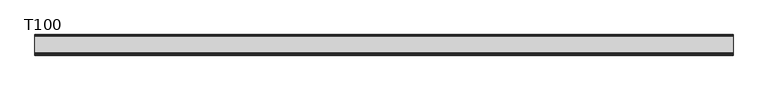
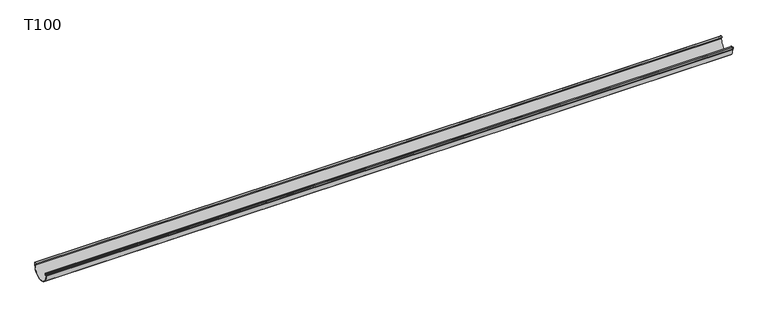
"""IFC4 building model written with IfcOpenShell, lengths in millimetres: proxy geometry, GROVIK_Gutter_Straight : T100."""

from ifc_helpers import new_model, si_unit, point, frame, frame_2d, origin, place, context, project, spatial, polyline, circle_curve, trimmed, segment, composite_curve, outline, extrude, source, transform, mapped, element, save


def t100_1b2db7d9(model_context):
    return source(origin(), model_context, "Body", "SweptSolid", [
        extrude(outline(composite_curve([segment(polyline([(95.6785725, -12.9222473), (100.8871557, -13.3779393)]), True, "CONTINUOUS"), segment(trimmed(circle_curve(frame_2d((100.8, -14.374134)), 1.0), [point((100.8871557, -13.3779393))], [point((101.8, -14.374134))], False, "CARTESIAN"), True, "CONTINUOUS"), segment(polyline([(101.8, -14.374134), (101.8, -16.3578028)]), True, "CONTINUOUS"), segment(trimmed(circle_curve(frame_2d((50.9, -16.3578028)), 50.9), [point((101.8, -16.3578028))], [point((0.0, -16.3578028))], False, "CARTESIAN"), True, "CONTINUOUS"), segment(polyline([(0.0, -16.3578028), (0.0, -0.5)]), True, "CONTINUOUS"), segment(trimmed(circle_curve(frame_2d((0.5, -0.5)), 0.5), [point((0.0, -0.5))], [point((0.8213938, -0.1169778))], False, "CARTESIAN"), True, "CONTINUOUS"), segment(polyline([(0.8213938, -0.1169778), (6.2279844, -4.653646), (5.6494755, -5.343086), (0.9, -1.3578028), (0.9, -16.3578028)]), True, "CONTINUOUS"), segment(trimmed(circle_curve(frame_2d((50.9, -16.3578028)), 50.0), [point((0.9, -16.3578028))], [point((100.9, -16.3578028))], True, "CARTESIAN"), True, "CONTINUOUS"), segment(polyline([(100.9, -16.3578028), (100.9, -14.2825009), (95.683723, -13.8261357)]), True, "CONTINUOUS"), segment(trimmed(circle_curve(frame_2d((95.683723, -12.9170968)), 0.909039), [point((95.683723, -13.8261357))], [point((94.7746841, -12.9170968))], False, "CARTESIAN"), True, "CONTINUOUS"), segment(polyline([(94.7746841, -12.9170968), (93.9345391, -3.3141956)]), True, "CONTINUOUS"), segment(trimmed(circle_curve(frame_2d((94.9307338, -3.2270398)), 1.0), [point((93.9345391, -3.3141956))], [point((94.7570856, -2.242232))], False, "CARTESIAN"), True, "CONTINUOUS"), segment(polyline([(94.7570856, -2.242232), (104.6051631, -0.5057502)]), True, "CONTINUOUS"), segment(trimmed(circle_curve(frame_2d((104.6923189, -1.501945)), 1.0), [point((104.6051631, -0.5057502))], [point((105.6885136, -1.4147892))], False, "CARTESIAN"), True, "CONTINUOUS"), segment(polyline([(105.6885136, -1.4147892), (106.1850202, -7.0898859)]), True, "CONTINUOUS"), segment(trimmed(circle_curve(frame_2d((105.1888255, -7.1770417)), 1.0), [point((106.1850202, -7.0898859))], [point((105.0151773, -8.1618494))], False, "CARTESIAN"), True, "CONTINUOUS"), segment(polyline([(105.0151773, -8.1618494), (98.1850202, -6.9575084), (98.3413035, -6.0711814), (105.2998033, -7.2981526), (104.7816977, -1.3761787), (94.8220658, -3.1323306), (95.6785725, -12.9222473)]), True, "CONTINUOUS")], self_intersect=False)), frame((3590.984366, 0.0, -3.9158094), z_axis=(-0.9999994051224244, 0.0, 0.0010907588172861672), x_axis=(0.0, -1.0, 0.0)), (0.0, 0.0, 1.0), 3589.9865016),
    ])


if __name__ == "__main__":
    model = new_model("IFC4")
    model_context = context("Model", 3, world=origin())
    ifc_project = project(units=[si_unit("LENGTHUNIT", "METRE", prefix="MILLI")], contexts=[model_context])
    site = spatial("IfcSite", under=ifc_project)
    building = spatial("IfcBuilding", under=site)
    placement = place(None, origin())
    t100_shape = t100_1b2db7d9(model_context)
    element("IfcBuildingElementProxy", 1, Name="GROVIK_Gutter_Straight : T100", ObjectType="GROVIK_Gutter_Straight : T100", at=placement, inside=building, context=model_context, shape_type="MappedRepresentation", body=[
        mapped(t100_shape, transform((0.0, 0.0, 0.0), x_axis=(1.0, 0.0, 0.0), y_axis=(0.0, 1.0, 0.0), z_axis=(0.0, 0.0, 1.0))),
    ])
    save(model, "model.ifc")
